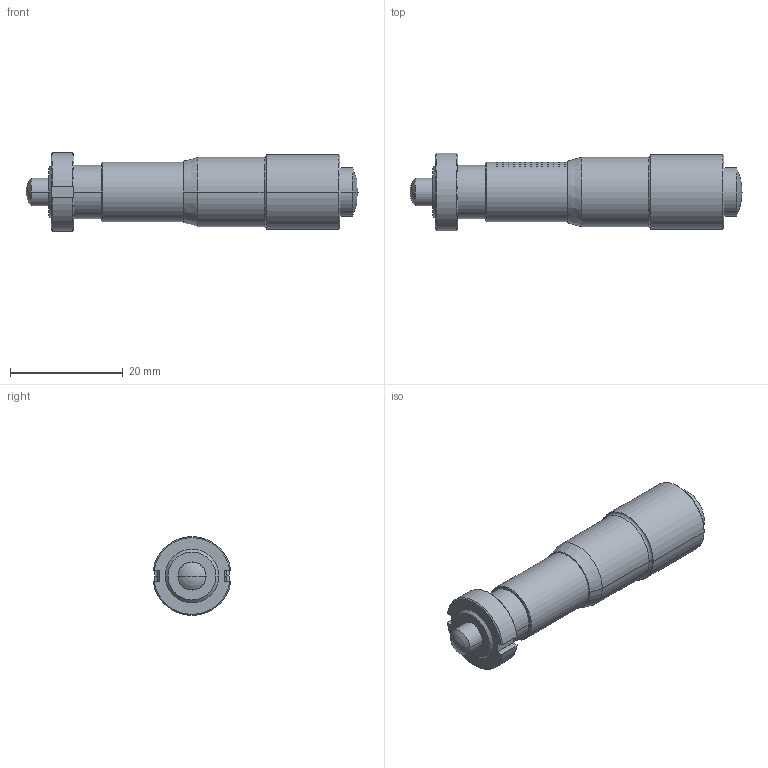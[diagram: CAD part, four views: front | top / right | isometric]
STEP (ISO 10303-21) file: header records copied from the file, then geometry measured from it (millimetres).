
FILE_DESCRIPTION((''),'2;1');
FILE_NAME('MICRO-HEAD-13-R-NUT-SJP','2021-07-12T17:46:16',('windows10'),(''),'CREO PARAMETRIC BY PTC INC, 2018260','CREO PARAMETRIC BY PTC INC, 2018260','');
FILE_SCHEMA(('CONFIG_CONTROL_DESIGN'));
Length unit declared in the file: millimetre
Products named in the file (1): MICRO-HEAD-13-R-NUT-SJP
Bounding box: 59 x 13.86 x 13.95 mm (x, y, z)
Volume: 5300.2 mm3; surface area: 4351.8 mm2
Topology: 1 solids, 2 shells, 342 faces, 879 edges, 580 vertices
Faces by surface type: plane 263, cylinder 57, cone 14, sphere 4, torus 4
Entity records: 10378 total; most frequent: CARTESIAN_POINT 2255, ORIENTED_EDGE 1746, DIRECTION 1549, EDGE_CURVE 875, VERTEX_POINT 580, AXIS2_PLACEMENT_3D 559, VECTOR 431, LINE 431
